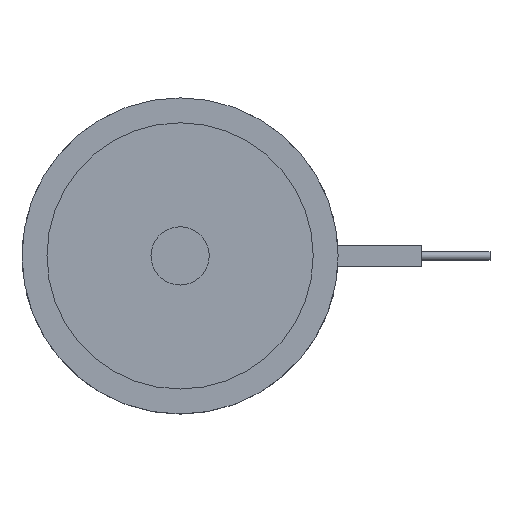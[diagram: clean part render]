
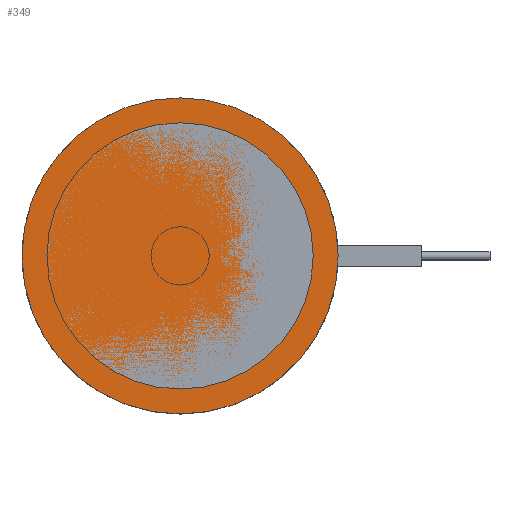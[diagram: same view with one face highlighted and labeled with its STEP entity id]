
A CAD part, top view. The second image highlights one B-rep face of the part: STEP entity #349.
In plain terms, the highlighted planar face has unit normal (0, 0, 1).
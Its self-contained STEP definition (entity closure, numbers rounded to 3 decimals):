
#349=ADVANCED_FACE('',(#461),#420,.F.);
#420=PLANE('',#1232);
#461=FACE_OUTER_BOUND('',#551,.T.);
#551=EDGE_LOOP('',(#705));
#705=ORIENTED_EDGE('',*,*,#1017,.F.);
#914=VERTEX_POINT('',#1815);
#1017=EDGE_CURVE('',#914,#914,#1127,.T.);
#1127=CIRCLE('',#1231,19.);
#1231=AXIS2_PLACEMENT_3D('',#1814,#1454,#1455);
#1232=AXIS2_PLACEMENT_3D('',#1816,#1456,#1457);
#1454=DIRECTION('',(0.,0.,-1.));
#1455=DIRECTION('',(-1.,0.,0.));
#1456=DIRECTION('',(0.,0.,-1.));
#1457=DIRECTION('',(-1.,0.,0.));
#1814=CARTESIAN_POINT('',(0.,0.,0.));
#1815=CARTESIAN_POINT('',(-19.,0.,0.));
#1816=CARTESIAN_POINT('',(0.,0.,0.));
